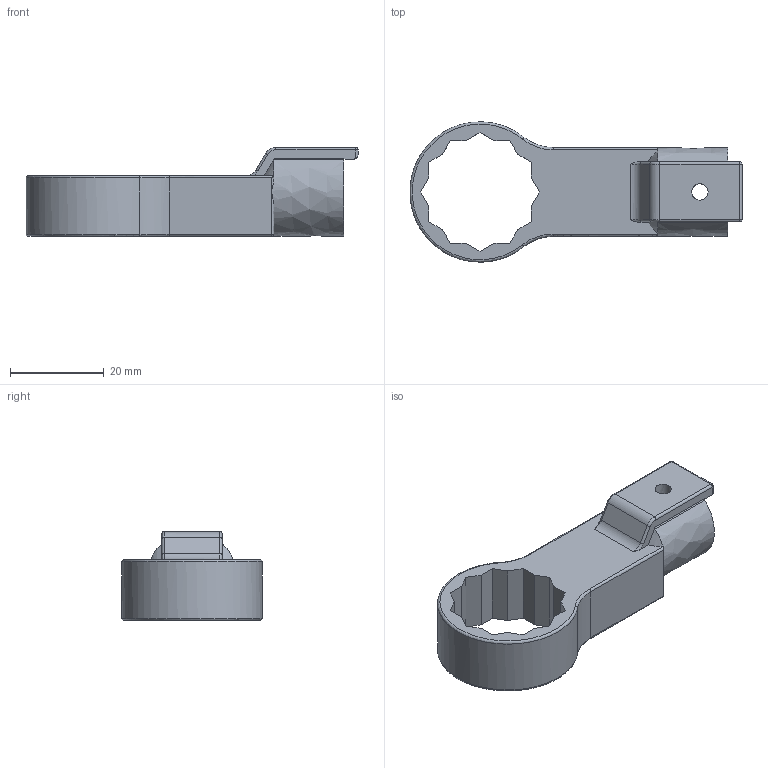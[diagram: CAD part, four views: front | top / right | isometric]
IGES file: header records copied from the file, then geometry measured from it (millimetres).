
Global section: file name: RH12DX22; native system: Autodesk Inventor 2016; preprocessor: unknown; author: Q532; date: 20151110.160426; units: millimetre
Bounding box: 70.97 x 30 x 19 mm (x, y, z)
Volume: 12255.7 mm3; surface area: 6065.4 mm2
Topology: 1 solids, 1 shells, 86 faces, 232 edges, 144 vertices
Faces by surface type: bspline 86
